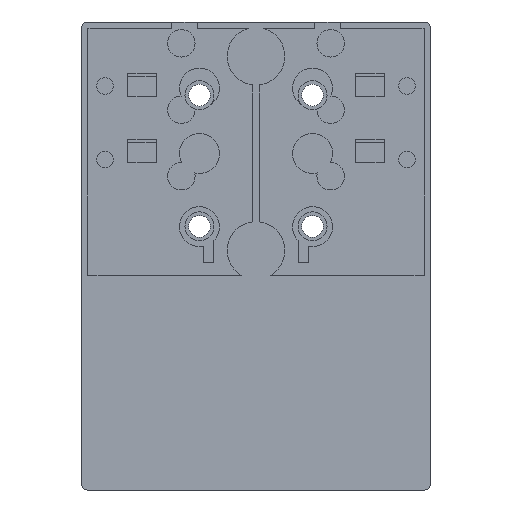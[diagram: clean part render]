
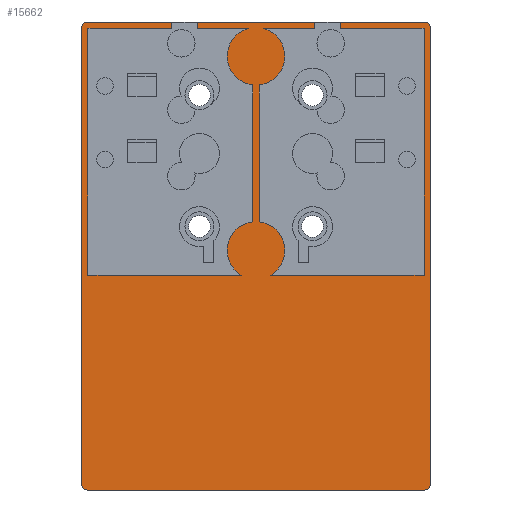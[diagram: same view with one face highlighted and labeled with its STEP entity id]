
A CAD part, front view. The second image highlights one B-rep face of the part: STEP entity #15662.
In plain terms, the highlighted planar face has unit normal (0, -1, 0).
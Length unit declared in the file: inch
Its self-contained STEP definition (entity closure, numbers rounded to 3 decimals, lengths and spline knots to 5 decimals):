
#901=LINE('',#22229,#2561);
#902=LINE('',#22231,#2562);
#903=LINE('',#22233,#2563);
#904=LINE('',#22235,#2564);
#905=LINE('',#22237,#2565);
#906=LINE('',#22241,#2566);
#907=LINE('',#22245,#2567);
#908=LINE('',#22247,#2568);
#909=LINE('',#22249,#2569);
#910=LINE('',#22251,#2570);
#911=LINE('',#22253,#2571);
#912=LINE('',#22257,#2572);
#913=LINE('',#22261,#2573);
#914=LINE('',#22265,#2574);
#915=LINE('',#22269,#2575);
#916=LINE('',#22271,#2576);
#917=LINE('',#22273,#2577);
#918=LINE('',#22275,#2578);
#919=LINE('',#22277,#2579);
#920=LINE('',#22281,#2580);
#2561=VECTOR('',#18054,0.3937);
#2562=VECTOR('',#18055,0.3937);
#2563=VECTOR('',#18056,0.3937);
#2564=VECTOR('',#18057,0.3937);
#2565=VECTOR('',#18058,0.3937);
#2566=VECTOR('',#18061,0.3937);
#2567=VECTOR('',#18064,0.3937);
#2568=VECTOR('',#18065,0.3937);
#2569=VECTOR('',#18066,0.3937);
#2570=VECTOR('',#18067,0.3937);
#2571=VECTOR('',#18068,0.3937);
#2572=VECTOR('',#18071,0.3937);
#2573=VECTOR('',#18074,0.3937);
#2574=VECTOR('',#18077,0.3937);
#2575=VECTOR('',#18080,0.3937);
#2576=VECTOR('',#18081,0.3937);
#2577=VECTOR('',#18082,0.3937);
#2578=VECTOR('',#18083,0.3937);
#2579=VECTOR('',#18084,0.3937);
#2580=VECTOR('',#18087,0.3937);
#4227=FACE_OUTER_BOUND('',#5111,.T.);
#5111=EDGE_LOOP('',(#10412,#10413,#10414,#10415,#10416,#10417,#10418,#10419,
#10420,#10421,#10422,#10423,#10424,#10425,#10426,#10427,#10428,#10429,#10430,
#10431,#10432,#10433,#10434,#10435,#10436,#10437,#10438,#10439));
#6126=CIRCLE('',#16778,0.277);
#6127=CIRCLE('',#16779,0.277);
#6128=CIRCLE('',#16780,0.06);
#6129=CIRCLE('',#16781,0.06);
#6130=CIRCLE('',#16782,0.06);
#6131=CIRCLE('',#16783,0.06);
#6132=CIRCLE('',#16784,0.277);
#6133=CIRCLE('',#16785,0.277);
#6541=VERTEX_POINT('',#22227);
#6542=VERTEX_POINT('',#22228);
#6543=VERTEX_POINT('',#22230);
#6544=VERTEX_POINT('',#22232);
#6545=VERTEX_POINT('',#22234);
#6546=VERTEX_POINT('',#22236);
#6547=VERTEX_POINT('',#22238);
#6548=VERTEX_POINT('',#22240);
#6549=VERTEX_POINT('',#22242);
#6550=VERTEX_POINT('',#22244);
#6551=VERTEX_POINT('',#22246);
#6552=VERTEX_POINT('',#22248);
#6553=VERTEX_POINT('',#22250);
#6554=VERTEX_POINT('',#22252);
#6555=VERTEX_POINT('',#22254);
#6556=VERTEX_POINT('',#22256);
#6557=VERTEX_POINT('',#22258);
#6558=VERTEX_POINT('',#22260);
#6559=VERTEX_POINT('',#22262);
#6560=VERTEX_POINT('',#22264);
#6561=VERTEX_POINT('',#22266);
#6562=VERTEX_POINT('',#22268);
#6563=VERTEX_POINT('',#22270);
#6564=VERTEX_POINT('',#22272);
#6565=VERTEX_POINT('',#22274);
#6566=VERTEX_POINT('',#22276);
#6567=VERTEX_POINT('',#22278);
#6568=VERTEX_POINT('',#22280);
#8073=EDGE_CURVE('',#6541,#6542,#901,.T.);
#8074=EDGE_CURVE('',#6542,#6543,#902,.T.);
#8075=EDGE_CURVE('',#6544,#6543,#903,.T.);
#8076=EDGE_CURVE('',#6544,#6545,#904,.T.);
#8077=EDGE_CURVE('',#6545,#6546,#905,.T.);
#8078=EDGE_CURVE('',#6547,#6546,#6126,.T.);
#8079=EDGE_CURVE('',#6548,#6547,#906,.T.);
#8080=EDGE_CURVE('',#6549,#6548,#6127,.T.);
#8081=EDGE_CURVE('',#6550,#6549,#907,.T.);
#8082=EDGE_CURVE('',#6550,#6551,#908,.T.);
#8083=EDGE_CURVE('',#6551,#6552,#909,.T.);
#8084=EDGE_CURVE('',#6552,#6553,#910,.T.);
#8085=EDGE_CURVE('',#6554,#6553,#911,.T.);
#8086=EDGE_CURVE('',#6555,#6554,#6128,.T.);
#8087=EDGE_CURVE('',#6556,#6555,#912,.T.);
#8088=EDGE_CURVE('',#6557,#6556,#6129,.T.);
#8089=EDGE_CURVE('',#6558,#6557,#913,.T.);
#8090=EDGE_CURVE('',#6559,#6558,#6130,.T.);
#8091=EDGE_CURVE('',#6560,#6559,#914,.T.);
#8092=EDGE_CURVE('',#6561,#6560,#6131,.T.);
#8093=EDGE_CURVE('',#6562,#6561,#915,.T.);
#8094=EDGE_CURVE('',#6562,#6563,#916,.T.);
#8095=EDGE_CURVE('',#6563,#6564,#917,.T.);
#8096=EDGE_CURVE('',#6564,#6565,#918,.T.);
#8097=EDGE_CURVE('',#6566,#6565,#919,.T.);
#8098=EDGE_CURVE('',#6567,#6566,#6132,.T.);
#8099=EDGE_CURVE('',#6568,#6567,#920,.T.);
#8100=EDGE_CURVE('',#6541,#6568,#6133,.T.);
#10412=ORIENTED_EDGE('',*,*,#8073,.T.);
#10413=ORIENTED_EDGE('',*,*,#8074,.T.);
#10414=ORIENTED_EDGE('',*,*,#8075,.F.);
#10415=ORIENTED_EDGE('',*,*,#8076,.T.);
#10416=ORIENTED_EDGE('',*,*,#8077,.T.);
#10417=ORIENTED_EDGE('',*,*,#8078,.F.);
#10418=ORIENTED_EDGE('',*,*,#8079,.F.);
#10419=ORIENTED_EDGE('',*,*,#8080,.F.);
#10420=ORIENTED_EDGE('',*,*,#8081,.F.);
#10421=ORIENTED_EDGE('',*,*,#8082,.T.);
#10422=ORIENTED_EDGE('',*,*,#8083,.T.);
#10423=ORIENTED_EDGE('',*,*,#8084,.T.);
#10424=ORIENTED_EDGE('',*,*,#8085,.F.);
#10425=ORIENTED_EDGE('',*,*,#8086,.F.);
#10426=ORIENTED_EDGE('',*,*,#8087,.F.);
#10427=ORIENTED_EDGE('',*,*,#8088,.F.);
#10428=ORIENTED_EDGE('',*,*,#8089,.F.);
#10429=ORIENTED_EDGE('',*,*,#8090,.F.);
#10430=ORIENTED_EDGE('',*,*,#8091,.F.);
#10431=ORIENTED_EDGE('',*,*,#8092,.F.);
#10432=ORIENTED_EDGE('',*,*,#8093,.F.);
#10433=ORIENTED_EDGE('',*,*,#8094,.T.);
#10434=ORIENTED_EDGE('',*,*,#8095,.T.);
#10435=ORIENTED_EDGE('',*,*,#8096,.T.);
#10436=ORIENTED_EDGE('',*,*,#8097,.F.);
#10437=ORIENTED_EDGE('',*,*,#8098,.F.);
#10438=ORIENTED_EDGE('',*,*,#8099,.F.);
#10439=ORIENTED_EDGE('',*,*,#8100,.F.);
#15090=PLANE('',#16777);
#15662=ADVANCED_FACE('',(#4227),#15090,.T.);
#16777=AXIS2_PLACEMENT_3D('',#22226,#18052,#18053);
#16778=AXIS2_PLACEMENT_3D('',#22239,#18059,#18060);
#16779=AXIS2_PLACEMENT_3D('',#22243,#18062,#18063);
#16780=AXIS2_PLACEMENT_3D('',#22255,#18069,#18070);
#16781=AXIS2_PLACEMENT_3D('',#22259,#18072,#18073);
#16782=AXIS2_PLACEMENT_3D('',#22263,#18075,#18076);
#16783=AXIS2_PLACEMENT_3D('',#22267,#18078,#18079);
#16784=AXIS2_PLACEMENT_3D('',#22279,#18085,#18086);
#16785=AXIS2_PLACEMENT_3D('',#22282,#18088,#18089);
#18052=DIRECTION('center_axis',(0.,-1.,0.));
#18053=DIRECTION('ref_axis',(0.,0.,-1.));
#18054=DIRECTION('',(1.,0.,0.));
#18055=DIRECTION('',(0.,0.,1.));
#18056=DIRECTION('',(1.,0.,0.));
#18057=DIRECTION('',(0.,0.,-1.));
#18058=DIRECTION('',(1.,0.,0.));
#18059=DIRECTION('center_axis',(0.,1.,0.));
#18060=DIRECTION('ref_axis',(-1.,0.,0.));
#18061=DIRECTION('',(0.,0.,1.));
#18062=DIRECTION('center_axis',(0.,1.,0.));
#18063=DIRECTION('ref_axis',(-1.,0.,0.));
#18064=DIRECTION('',(1.,0.,0.));
#18065=DIRECTION('',(0.,0.,1.));
#18066=DIRECTION('',(1.,0.,0.));
#18067=DIRECTION('',(0.,0.,1.));
#18068=DIRECTION('',(1.,0.,0.));
#18069=DIRECTION('center_axis',(0.,1.,0.));
#18070=DIRECTION('ref_axis',(-0.707,0.,0.707));
#18071=DIRECTION('',(0.,0.,1.));
#18072=DIRECTION('center_axis',(0.,1.,0.));
#18073=DIRECTION('ref_axis',(-0.707,0.,-0.707));
#18074=DIRECTION('',(-1.,0.,0.));
#18075=DIRECTION('center_axis',(0.,1.,0.));
#18076=DIRECTION('ref_axis',(0.707,0.,-0.707));
#18077=DIRECTION('',(0.,0.,-1.));
#18078=DIRECTION('center_axis',(0.,1.,0.));
#18079=DIRECTION('ref_axis',(0.707,0.,0.707));
#18080=DIRECTION('',(1.,0.,0.));
#18081=DIRECTION('',(0.,0.,-1.));
#18082=DIRECTION('',(1.,0.,0.));
#18083=DIRECTION('',(0.,0.,-1.));
#18084=DIRECTION('',(1.,0.,0.));
#18085=DIRECTION('center_axis',(0.,1.,0.));
#18086=DIRECTION('ref_axis',(-1.,0.,0.));
#18087=DIRECTION('',(0.,0.,-1.));
#18088=DIRECTION('center_axis',(0.,1.,0.));
#18089=DIRECTION('ref_axis',(-1.,0.,0.));
#22226=CARTESIAN_POINT('Origin',(0.,0.,0.35));
#22227=CARTESIAN_POINT('',(0.07192,0.,2.5375));
#22228=CARTESIAN_POINT('',(0.565,0.,2.5375));
#22229=CARTESIAN_POINT('',(-0.839,0.,2.5375));
#22230=CARTESIAN_POINT('',(0.565,0.,2.6));
#22231=CARTESIAN_POINT('',(0.565,0.,1.475));
#22232=CARTESIAN_POINT('',(-0.565,0.,2.6));
#22233=CARTESIAN_POINT('',(-1.678,0.,2.6));
#22234=CARTESIAN_POINT('',(-0.565,0.,2.5375));
#22235=CARTESIAN_POINT('',(-0.565,0.,1.475));
#22236=CARTESIAN_POINT('',(-0.07192,0.,2.5375));
#22237=CARTESIAN_POINT('',(-0.839,0.,2.5375));
#22238=CARTESIAN_POINT('',(-0.03125,0.,1.99477));
#22239=CARTESIAN_POINT('Origin',(0.,0.,2.27));
#22240=CARTESIAN_POINT('',(-0.03125,0.,0.67773));
#22241=CARTESIAN_POINT('',(-0.03125,0.,1.44375));
#22242=CARTESIAN_POINT('',(-0.14256,0.,0.165));
#22243=CARTESIAN_POINT('Origin',(0.,0.,0.4025));
#22244=CARTESIAN_POINT('',(-1.6155,0.,0.165));
#22245=CARTESIAN_POINT('',(-0.01562,0.,0.165));
#22246=CARTESIAN_POINT('',(-1.6155,0.,2.5375));
#22247=CARTESIAN_POINT('',(-1.6155,0.,-0.775));
#22248=CARTESIAN_POINT('',(-0.81,0.,2.5375));
#22249=CARTESIAN_POINT('',(-0.839,0.,2.5375));
#22250=CARTESIAN_POINT('',(-0.81,0.,2.6));
#22251=CARTESIAN_POINT('',(-0.81,0.,1.475));
#22252=CARTESIAN_POINT('',(-1.618,0.,2.6));
#22253=CARTESIAN_POINT('',(-1.678,0.,2.6));
#22254=CARTESIAN_POINT('',(-1.678,0.,2.54));
#22255=CARTESIAN_POINT('Origin',(-1.618,0.,2.54));
#22256=CARTESIAN_POINT('',(-1.678,0.,-1.84));
#22257=CARTESIAN_POINT('',(-1.678,0.,-1.9));
#22258=CARTESIAN_POINT('',(-1.618,0.,-1.9));
#22259=CARTESIAN_POINT('Origin',(-1.618,0.,-1.84));
#22260=CARTESIAN_POINT('',(1.618,0.,-1.9));
#22261=CARTESIAN_POINT('',(1.678,0.,-1.9));
#22262=CARTESIAN_POINT('',(1.678,0.,-1.84));
#22263=CARTESIAN_POINT('Origin',(1.618,0.,-1.84));
#22264=CARTESIAN_POINT('',(1.678,0.,2.54));
#22265=CARTESIAN_POINT('',(1.678,0.,2.6));
#22266=CARTESIAN_POINT('',(1.618,0.,2.6));
#22267=CARTESIAN_POINT('Origin',(1.618,0.,2.54));
#22268=CARTESIAN_POINT('',(0.81,0.,2.6));
#22269=CARTESIAN_POINT('',(-1.678,0.,2.6));
#22270=CARTESIAN_POINT('',(0.81,0.,2.5375));
#22271=CARTESIAN_POINT('',(0.81,0.,1.475));
#22272=CARTESIAN_POINT('',(1.6155,0.,2.5375));
#22273=CARTESIAN_POINT('',(-0.839,0.,2.5375));
#22274=CARTESIAN_POINT('',(1.6155,0.,0.165));
#22275=CARTESIAN_POINT('',(1.6155,0.,1.475));
#22276=CARTESIAN_POINT('',(0.14256,0.,0.165));
#22277=CARTESIAN_POINT('',(0.80775,0.,0.165));
#22278=CARTESIAN_POINT('',(0.03125,0.,0.67773));
#22279=CARTESIAN_POINT('Origin',(0.,0.,0.4025));
#22280=CARTESIAN_POINT('',(0.03125,0.,1.99477));
#22281=CARTESIAN_POINT('',(0.03125,0.,0.2575));
#22282=CARTESIAN_POINT('Origin',(0.,0.,2.27));
